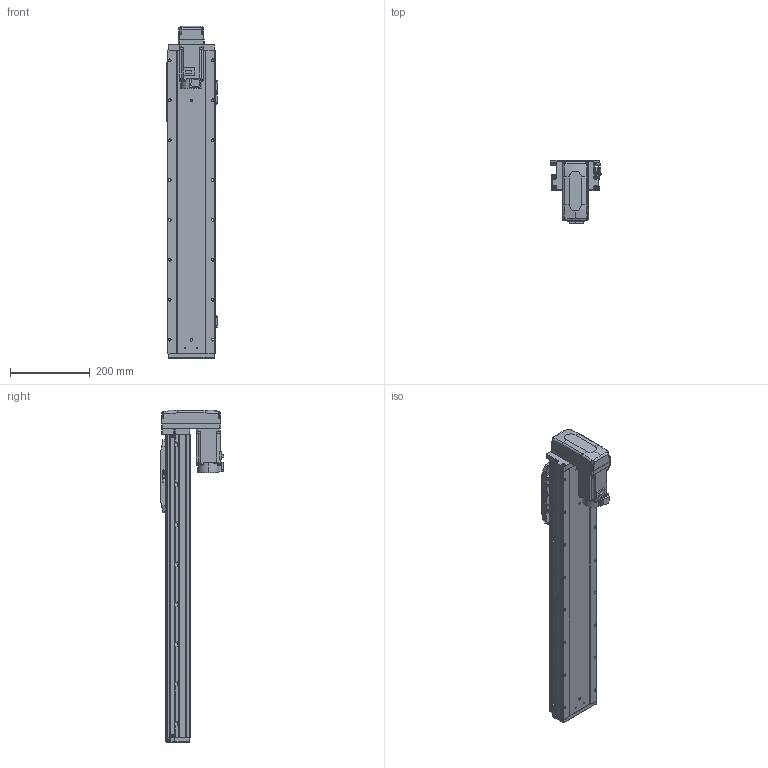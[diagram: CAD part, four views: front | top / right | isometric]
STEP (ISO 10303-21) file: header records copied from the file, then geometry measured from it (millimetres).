
FILE_DESCRIPTION (( 'STEP AP203' ), '1' );
FILE_NAME ('GTH12-550-BM-M40-C4.step', '2022-09-29T02:01:51', ( '微软用户' ), ( '微软中国' ), 'SwSTEP 2.0', 'SolidWorks 2020', '' );
FILE_SCHEMA (( 'CONFIG_CONTROL_DESIGN' ));
Length unit declared in the file: millimetre
Products named in the file (18): GTH120-003; GTH80-022; CTHA86-033_M40B; GTH120-006; GTH80-028; GTH120-027-1_GTH120-027-2; GTH120-004; GTH50-023; GTH12-550-BM-M40-C4; GTH120-013; GTH50-024; GBT 70.1-M3℅6; GBT96.1-2002 3×0.8; GBT 70.1-M5×16; BTH-M3X5X6; GTH120-001_550; GBT 70.3-M3℅8; hg-kn43j_-s100_
Assembly tree (59 placements, depth 2):
  GTH12-550-BM-M40-C4
    GTH120-001_550
    GTH120-003
    GTH120-006
    GTH120-004
    GTH120-013
    GBT 70.1-M3℅6  x14
    GBT 70.1-M5×16  x10
    GBT 70.3-M3℅8  x4
    GTH80-022
    GTH80-028  x2
    GTH50-023  x3
    GTH50-024  x3
    GBT96.1-2002 3×0.8  x6
    BTH-M3X5X6  x8
    hg-kn43j_-s100_
    CTHA86-033_M40B
    GTH120-027-1_GTH120-027-2
Bounding box: 125.7 x 159.8 x 832 mm (x, y, z)
Volume: 6211066.8 mm3; surface area: 586931.8 mm2
Topology: 61 solids, 61 shells, 2428 faces, 5655 edges, 3469 vertices
Faces by surface type: plane 1254, cylinder 698, cone 288, torus 174, sphere 8, bspline 6
Entity records: 45141 total; most frequent: CARTESIAN_POINT 7682, DIRECTION 7455, ORIENTED_EDGE 6920, EDGE_CURVE 3460, AXIS2_PLACEMENT_3D 2607, LINE 2241, VECTOR 2241, VERTEX_POINT 2190
